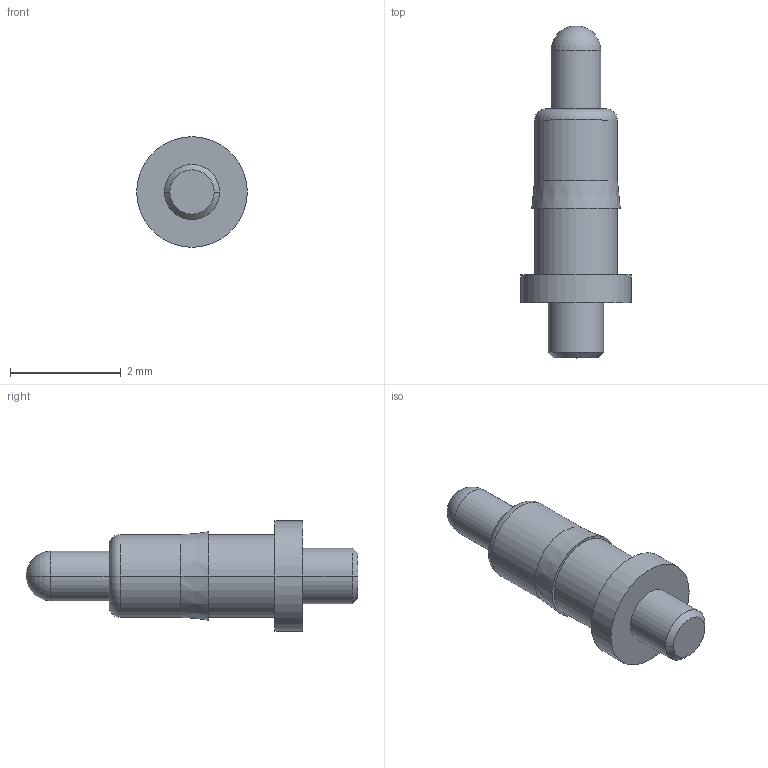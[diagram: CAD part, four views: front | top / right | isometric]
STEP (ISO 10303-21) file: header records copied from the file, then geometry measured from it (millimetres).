
FILE_DESCRIPTION((''),'2;1');
FILE_NAME('P70-2010045','2016-08-09T',('mperren'),(''),'CREO PARAMETRIC BY PTC INC, 2016050','CREO PARAMETRIC BY PTC INC, 2016050','');
FILE_SCHEMA(('CONFIG_CONTROL_DESIGN'));
Length unit declared in the file: millimetre
Products named in the file (1): P70-2010045
Bounding box: 2 x 6 x 2 mm (x, y, z)
Volume: 8.5 mm3; surface area: 30 mm2
Topology: 1 solids, 1 shells, 23 faces, 46 edges, 27 vertices
Faces by surface type: cylinder 10, plane 5, cone 4, torus 2, sphere 2
Entity records: 785 total; most frequent: DIRECTION 120, CARTESIAN_POINT 94, ORIENTED_EDGE 88, AXIS2_PLACEMENT_3D 53, PRESENTATION_STYLE_ASSIGNMENT 45, STYLED_ITEM 45, CURVE_STYLE 44, EDGE_CURVE 44
